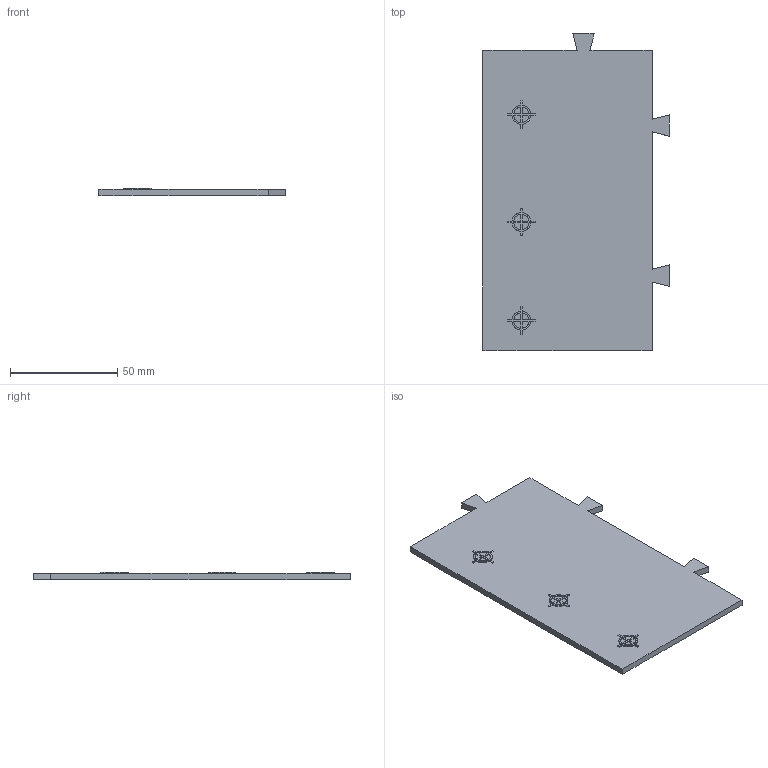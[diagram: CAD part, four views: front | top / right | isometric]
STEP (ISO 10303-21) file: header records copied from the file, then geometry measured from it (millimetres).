
FILE_DESCRIPTION(('q2_plate280_tile_LF'),'2;1');
FILE_NAME('q2_plate280_tile_LF.step','2026-11-05T00:00:00',('rayaanatif'),(''),'qs-cad','qs-cad','');
FILE_SCHEMA(('AUTOMOTIVE_DESIGN { 1 0 10303 214 1 1 1 1 }'));
Length unit declared in the file: millimetre
Products named in the file (1): q2_plate280_tile_LF
Bounding box: 87 x 148 x 3.4 mm (x, y, z)
Volume: 33629.2 mm3; surface area: 24244.8 mm2
Topology: 1 solids, 1 shells, 489 faces, 1745 edges, 1277 vertices
Faces by surface type: plane 489
Entity records: 16992 total; most frequent: ORIENTED_EDGE 3490, DIRECTION 2725, CARTESIAN_POINT 1767, VECTOR 1745, LINE 1745, EDGE_CURVE 1745, VERTEX_POINT 1277, EDGE_LOOP 508
